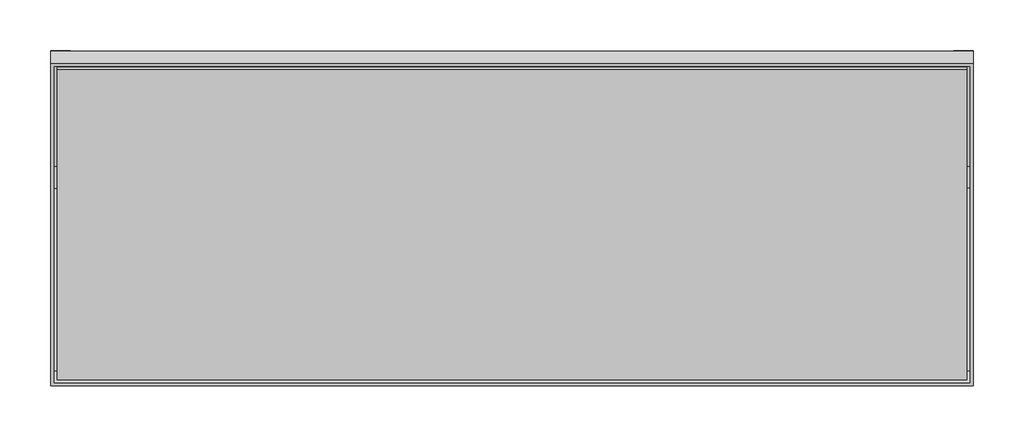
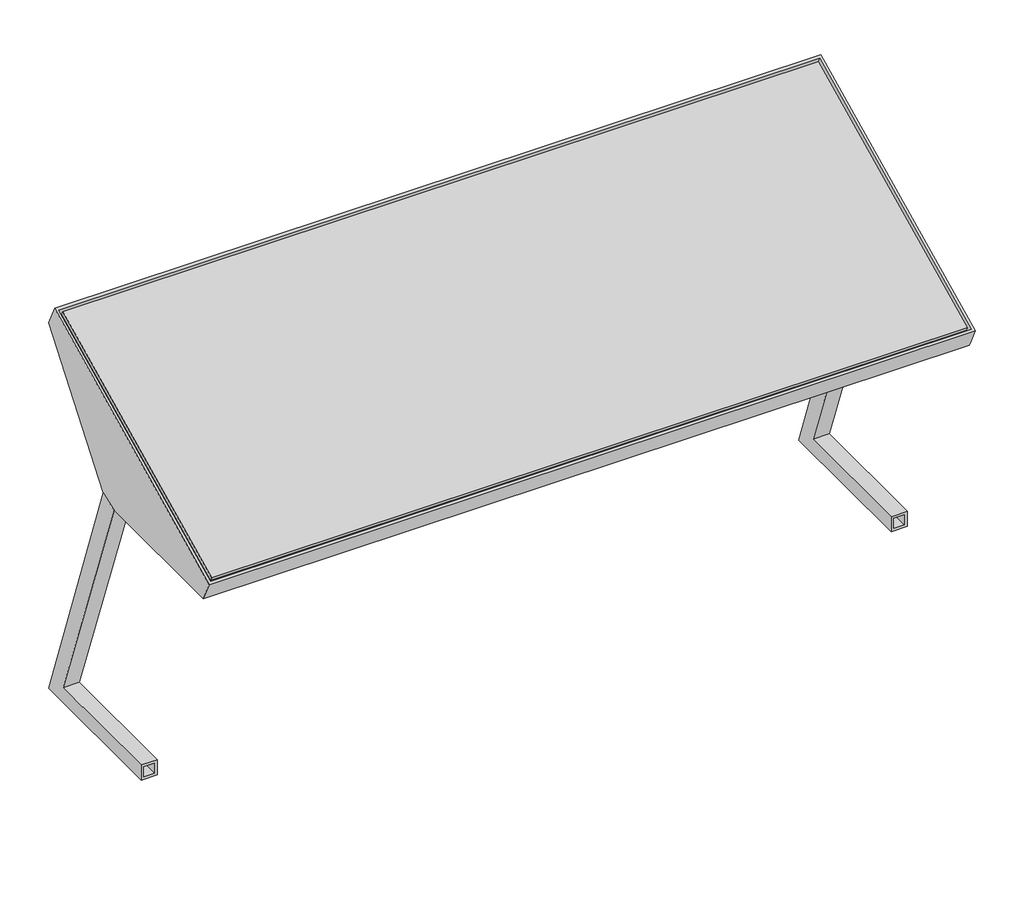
# One storey: 1 proxy.
"""IFC4 building model written with IfcOpenShell, lengths in millimetres."""

from ifc_helpers import new_model, si_unit, origin, place, context, project, spatial, transform, mapped, element, save
from components import qf_atlasmetal_sg_cat_qf_atlasmetal_sg_cat_6c17e1e4

model = new_model("IFC4")

# Units and contexts
model_context = context("Model", 3, world=origin())
ifc_project = project(units=[si_unit("LENGTHUNIT", "METRE", prefix="MILLI")], contexts=[model_context])

# Site, building, storey
site = spatial("IfcSite", under=ifc_project)
building = spatial("IfcBuilding", under=site)
storey = spatial("IfcBuildingStorey", under=building, Name="Level 02 - T.O. Footing", Elevation=-2743.2)

# Proxy
placement = place(None, origin())
qf_atlasmetal_sg_cat_qf_atlasmetal_sg_cat_shape = qf_atlasmetal_sg_cat_qf_atlasmetal_sg_cat_6c17e1e4(model_context)
element("IfcBuildingElementProxy", 1, Name="QF_AtlasMetal_SG_cat : QF_AtlasMetal_SG_cat", ObjectType="QF_AtlasMetal_SG_cat : QF_AtlasMetal_SG_cat", at=placement, inside=storey, context=model_context, shape_type="MappedRepresentation", body=[
    mapped(qf_atlasmetal_sg_cat_qf_atlasmetal_sg_cat_shape, transform((7529.9458793, 8696.8389786, -2743.2), x_axis=(1.0, 0.0, 0.0), y_axis=(0.0, 1.0, 0.0), z_axis=(0.0, 0.0, 1.0))),
])

save(model, "model.ifc")
